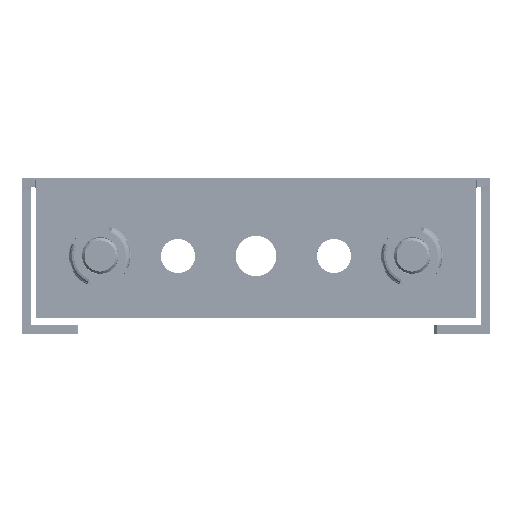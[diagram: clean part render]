
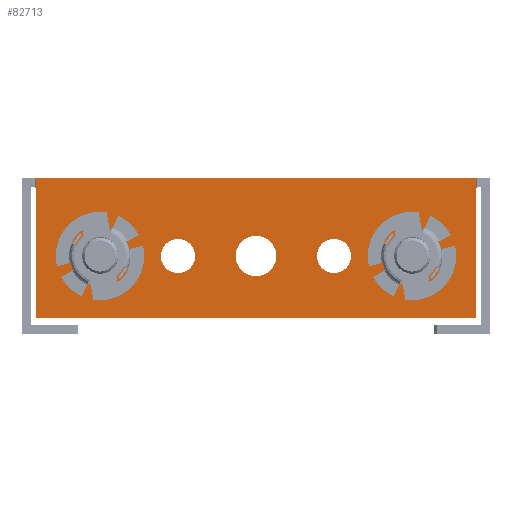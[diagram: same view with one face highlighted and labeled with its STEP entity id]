
A CAD part, left-side view. The second image highlights one B-rep face of the part: STEP entity #82713.
In plain terms, the highlighted planar face has unit normal (-1, 0, 0).
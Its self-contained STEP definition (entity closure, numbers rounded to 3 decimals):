
#39383 = VERTEX_POINT('',#39384);
#39384 = CARTESIAN_POINT('',(-749.,35.346,-0.));
#39391 = EDGE_CURVE('',#39392,#39383,#39394,.T.);
#39392 = VERTEX_POINT('',#39393);
#39393 = CARTESIAN_POINT('',(-749.,-35.346,
    0.));
#39394 = LINE('',#39395,#39396);
#39395 = CARTESIAN_POINT('',(-749.,0.,-0.));
#39396 = VECTOR('',#39397,1.);
#39397 = DIRECTION('',(-0.,1.,-0.));
#82514 = EDGE_CURVE('',#82515,#39392,#82517,.T.);
#82515 = VERTEX_POINT('',#82516);
#82516 = CARTESIAN_POINT('',(-749.,-35.293,-2.1));
#82517 = B_SPLINE_CURVE_WITH_KNOTS('',3,(#82518,#82519,#82520,#82521),
  .UNSPECIFIED.,.F.,.F.,(4,4),(0.002,0.004),
  .PIECEWISE_BEZIER_KNOTS.);
#82518 = CARTESIAN_POINT('',(-749.,-35.293,-2.1));
#82519 = CARTESIAN_POINT('',(-749.,-35.316,-1.4));
#82520 = CARTESIAN_POINT('',(-749.,-35.335,-0.7));
#82521 = CARTESIAN_POINT('',(-749.,-35.346,
    0.));
#82607 = EDGE_CURVE('',#82608,#39383,#82610,.T.);
#82608 = VERTEX_POINT('',#82609);
#82609 = CARTESIAN_POINT('',(-749.,35.293,-2.1));
#82610 = B_SPLINE_CURVE_WITH_KNOTS('',3,(#82611,#82612,#82613,#82614),
  .UNSPECIFIED.,.F.,.F.,(4,4),(0.002,0.004),
  .PIECEWISE_BEZIER_KNOTS.);
#82611 = CARTESIAN_POINT('',(-749.,35.293,-2.1));
#82612 = CARTESIAN_POINT('',(-749.,35.316,-1.4));
#82613 = CARTESIAN_POINT('',(-749.,35.335,
    -0.7));
#82614 = CARTESIAN_POINT('',(-749.,35.346,-0.));
#82689 = VERTEX_POINT('',#82690);
#82690 = CARTESIAN_POINT('',(-749.,-35.293,-22.5));
#82703 = EDGE_CURVE('',#82515,#82689,#82704,.T.);
#82704 = LINE('',#82705,#82706);
#82705 = CARTESIAN_POINT('',(-749.,-35.293,-1.5));
#82706 = VECTOR('',#82707,1.);
#82707 = DIRECTION('',(0.,0.,-1.));
#82713 = ADVANCED_FACE('',(#82714,#82725,#82736,#82747,#82758,#82769),
  #82789,.F.);
#82714 = FACE_BOUND('',#82715,.T.);
#82715 = EDGE_LOOP('',(#82716));
#82716 = ORIENTED_EDGE('',*,*,#82717,.F.);
#82717 = EDGE_CURVE('',#82718,#82718,#82720,.T.);
#82718 = VERTEX_POINT('',#82719);
#82719 = CARTESIAN_POINT('',(-749.,-12.5,-9.75));
#82720 = CIRCLE('',#82721,2.75);
#82721 = AXIS2_PLACEMENT_3D('',#82722,#82723,#82724);
#82722 = CARTESIAN_POINT('',(-749.,-12.5,-12.5));
#82723 = DIRECTION('',(-1.,0.,0.));
#82724 = DIRECTION('',(0.,0.,1.));
#82725 = FACE_BOUND('',#82726,.T.);
#82726 = EDGE_LOOP('',(#82727));
#82727 = ORIENTED_EDGE('',*,*,#82728,.F.);
#82728 = EDGE_CURVE('',#82729,#82729,#82731,.T.);
#82729 = VERTEX_POINT('',#82730);
#82730 = CARTESIAN_POINT('',(-749.,12.5,-15.25));
#82731 = CIRCLE('',#82732,2.75);
#82732 = AXIS2_PLACEMENT_3D('',#82733,#82734,#82735);
#82733 = CARTESIAN_POINT('',(-749.,12.5,-12.5));
#82734 = DIRECTION('',(-1.,0.,0.));
#82735 = DIRECTION('',(0.,0.,-1.));
#82736 = FACE_BOUND('',#82737,.T.);
#82737 = EDGE_LOOP('',(#82738));
#82738 = ORIENTED_EDGE('',*,*,#82739,.F.);
#82739 = EDGE_CURVE('',#82740,#82740,#82742,.T.);
#82740 = VERTEX_POINT('',#82741);
#82741 = CARTESIAN_POINT('',(-749.,25.,-15.75));
#82742 = CIRCLE('',#82743,3.25);
#82743 = AXIS2_PLACEMENT_3D('',#82744,#82745,#82746);
#82744 = CARTESIAN_POINT('',(-749.,25.,-12.5));
#82745 = DIRECTION('',(-1.,0.,0.));
#82746 = DIRECTION('',(0.,0.,-1.));
#82747 = FACE_BOUND('',#82748,.T.);
#82748 = EDGE_LOOP('',(#82749));
#82749 = ORIENTED_EDGE('',*,*,#82750,.F.);
#82750 = EDGE_CURVE('',#82751,#82751,#82753,.T.);
#82751 = VERTEX_POINT('',#82752);
#82752 = CARTESIAN_POINT('',(-749.,-25.,-9.25));
#82753 = CIRCLE('',#82754,3.25);
#82754 = AXIS2_PLACEMENT_3D('',#82755,#82756,#82757);
#82755 = CARTESIAN_POINT('',(-749.,-25.,-12.5));
#82756 = DIRECTION('',(-1.,0.,0.));
#82757 = DIRECTION('',(0.,0.,1.));
#82758 = FACE_BOUND('',#82759,.T.);
#82759 = EDGE_LOOP('',(#82760));
#82760 = ORIENTED_EDGE('',*,*,#82761,.F.);
#82761 = EDGE_CURVE('',#82762,#82762,#82764,.T.);
#82762 = VERTEX_POINT('',#82763);
#82763 = CARTESIAN_POINT('',(-749.,0.,-9.25));
#82764 = CIRCLE('',#82765,3.25);
#82765 = AXIS2_PLACEMENT_3D('',#82766,#82767,#82768);
#82766 = CARTESIAN_POINT('',(-749.,0.,-12.5));
#82767 = DIRECTION('',(-1.,0.,0.));
#82768 = DIRECTION('',(0.,0.,1.));
#82769 = FACE_BOUND('',#82770,.T.);
#82770 = EDGE_LOOP('',(#82771,#82772,#82773,#82774,#82775,#82783));
#82771 = ORIENTED_EDGE('',*,*,#82703,.F.);
#82772 = ORIENTED_EDGE('',*,*,#82514,.T.);
#82773 = ORIENTED_EDGE('',*,*,#39391,.T.);
#82774 = ORIENTED_EDGE('',*,*,#82607,.F.);
#82775 = ORIENTED_EDGE('',*,*,#82776,.T.);
#82776 = EDGE_CURVE('',#82608,#82777,#82779,.T.);
#82777 = VERTEX_POINT('',#82778);
#82778 = CARTESIAN_POINT('',(-749.,35.293,-22.5));
#82779 = LINE('',#82780,#82781);
#82780 = CARTESIAN_POINT('',(-749.,35.293,0.));
#82781 = VECTOR('',#82782,1.);
#82782 = DIRECTION('',(0.,0.,-1.));
#82783 = ORIENTED_EDGE('',*,*,#82784,.F.);
#82784 = EDGE_CURVE('',#82689,#82777,#82785,.T.);
#82785 = LINE('',#82786,#82787);
#82786 = CARTESIAN_POINT('',(-749.,-37.5,-22.5));
#82787 = VECTOR('',#82788,1.);
#82788 = DIRECTION('',(-0.,1.,-0.));
#82789 = PLANE('',#82790);
#82790 = AXIS2_PLACEMENT_3D('',#82791,#82792,#82793);
#82791 = CARTESIAN_POINT('',(-749.,0.,0.));
#82792 = DIRECTION('',(1.,0.,0.));
#82793 = DIRECTION('',(0.,0.,-1.));
